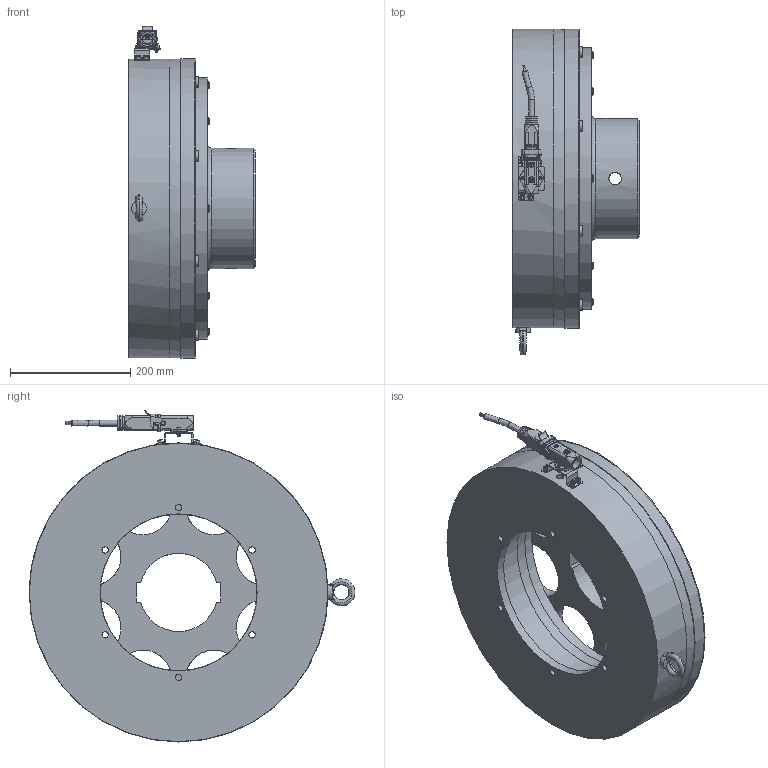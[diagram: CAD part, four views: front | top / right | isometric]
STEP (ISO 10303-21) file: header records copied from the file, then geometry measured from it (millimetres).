
FILE_DESCRIPTION(/* description */ (''),/* implementation_level */ '2;1');
FILE_NAME(/* name */ 'X:\INVENTOR\DISEGNI\08_Freni_Friz_Elettmag_Monodisco\08_28 EMFL_DF\EMFL_DF STEP\08_28_500_12 EMFL500_DF-C-ME_S@STEP.stp',/* time_stamp */ '2018-04-23T10:59:49+02:00',/* author */ ('stefano'),/* organization */ (''),/* preprocessor_version */ 'ST-DEVELOPER v17',/* originating_system */ 'Autodesk Inventor 2018',/* authorisation */ '');
FILE_SCHEMA (('AUTOMOTIVE_DESIGN { 1 0 10303 214 3 1 1 }'));
Products named in the file (1): 08_28_500_12 EMFL500_DF-C-ME - Spina_Substitute_1
Bounding box: 210 x 541.5 x 551.6 mm (x, y, z)
Volume: 13463402.4 mm3; surface area: 1485004.2 mm2
Topology: 3 solids, 3 shells, 1573 faces, 4432 edges, 2936 vertices
Faces by surface type: plane 958, cylinder 488, cone 71, torus 28, bspline 25, sphere 3
Full cylindrical faces by diameter (mm): 0.753 x1, 0.986 x1, 1.05 x1, 2.5 x2, 3 x3, 3.2 x1, 3.25 x2, 3.59 x1, 4 x3, 4.675 x2, 4.8 x2, 5 x4, 5.5 x2, 6 x2, 6.2 x1, 7 x1, 8.2 x2, 8.5 x4, 9.5 x2, 10.5 x6, 12 x9, 13.5 x2, 16 x2, 18 x25, 18.6 x1, 20 x16, 20.6 x1, 20.752 x2, 95 x8, 200 x1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
Entity records: 54743 total; most frequent: CARTESIAN_POINT 11237, DIRECTION 8866, ORIENTED_EDGE 8832, EDGE_CURVE 4416, AXIS2_PLACEMENT_3D 3152, VERTEX_POINT 2936, LINE 2562, VECTOR 2562
